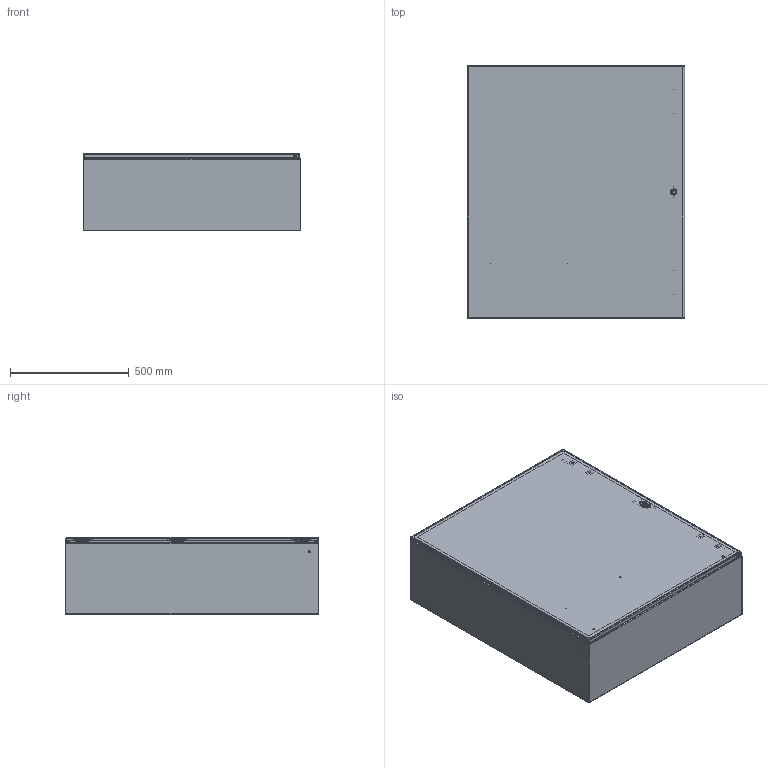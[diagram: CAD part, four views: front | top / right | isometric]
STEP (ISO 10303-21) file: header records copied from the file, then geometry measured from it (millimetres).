
FILE_DESCRIPTION (( 'STEP AP203' ), '1' );
FILE_NAME ('csd423612lg.STEP', '2012-06-11T20:15:48', ( 'User' ), ( 'Pentair Inc' ), 'SwSTEP 2.0', 'SolidWorks 2010', '' );
FILE_SCHEMA (( 'CONFIG_CONTROL_DESIGN' ));
Products named in the file (37): 87929769_Installed on Pin; csd423612lg; 89046046; 87755968_default; 64406008_default; 23271001_After Weld; 87937949_assy; 87937989_weldment; 87936148; 99401225; 51123001_Post weld; 87931362_87931362; 87408407_Unlocked; 64102001_Latch Open; 87540678; 64210001; 64202001; 64208001; 64205001; 87541995; 87541994_Installed Height; 87927840_87927840; 64206004; 64207001; 64103001; 99411834; 87932903; 64138001; 87555298; 87562939_87562939; 87938012; 87543027; 89076399; 89076193; 89056623; 87929507; 87929767
Assembly tree (71 placements, depth 5):
  csd423612lg
    89046046
      87755968_default
      23271001_After Weld  x8
      64406008_default  x2
      99401225
    89076399  x3
      89056623
      89076193
    87543027  x3
    87929507  x3
      87929767
      87929769_Installed on Pin
    87937949_assy
      87932903  x6
      64138001  x2
      87555298
      87408407_Unlocked
        64103001  x4
        64207001  x2
        99411834  x2
        64206004  x2
        64102001_Latch Open
          87541994_Installed Height
          87927840_87927840
          87540678
          87541995
          64210001
          64205001  x2
          64208001
          64202001
      87562939_87562939
      87938012
      87937989_weldment
        87931362_87931362  x8
        87936148
        99401225
        51123001_Post weld
Bounding box: 914.4 x 1067.1 x 325.5 mm (x, y, z)
Volume: 6441977.3 mm3; surface area: 6913039.7 mm2
Topology: 69 solids, 69 shells, 4246 faces, 10841 edges, 6684 vertices
Faces by surface type: plane 1718, cylinder 1187, bspline 914, torus 201, cone 189, sphere 37
Entity records: 85883 total; most frequent: CARTESIAN_POINT 32119, ORIENTED_EDGE 10818, DIRECTION 9221, EDGE_CURVE 5409, VERTEX_POINT 3405, AXIS2_PLACEMENT_3D 3157, LINE 2907, VECTOR 2907
